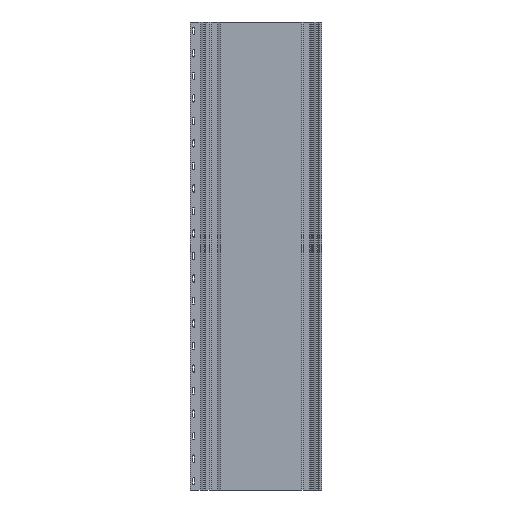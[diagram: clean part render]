
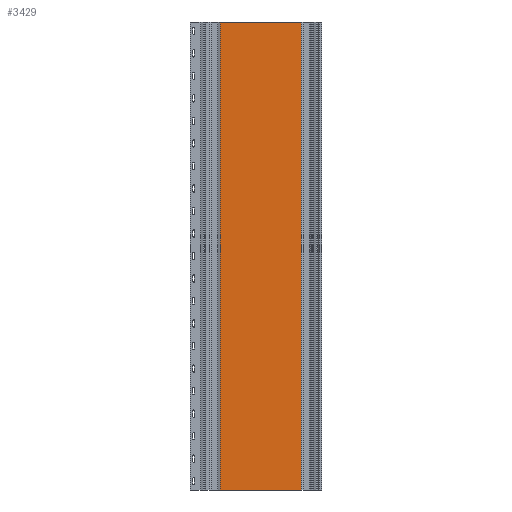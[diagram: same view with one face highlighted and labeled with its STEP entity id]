
A CAD part, front view. The second image highlights one B-rep face of the part: STEP entity #3429.
In plain terms, the highlighted planar face has unit normal (0, -1, 0).
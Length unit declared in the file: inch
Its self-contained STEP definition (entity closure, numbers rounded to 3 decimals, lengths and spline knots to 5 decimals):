
#122=PLANE('',#3745);
#273=FACE_OUTER_BOUND('',#443,.T.);
#443=EDGE_LOOP('',(#2723,#2724,#2725,#2726));
#785=LINE('',#5606,#1125);
#786=LINE('',#5609,#1126);
#787=LINE('',#5611,#1127);
#788=LINE('',#5612,#1128);
#1125=VECTOR('',#4593,0.3937);
#1126=VECTOR('',#4596,0.3937);
#1127=VECTOR('',#4597,0.3937);
#1128=VECTOR('',#4598,0.3937);
#1627=VERTEX_POINT('',#5602);
#1628=VERTEX_POINT('',#5604);
#1629=VERTEX_POINT('',#5608);
#1630=VERTEX_POINT('',#5610);
#2091=EDGE_CURVE('',#1627,#1628,#785,.T.);
#2092=EDGE_CURVE('',#1629,#1627,#786,.T.);
#2093=EDGE_CURVE('',#1630,#1628,#787,.T.);
#2094=EDGE_CURVE('',#1629,#1630,#788,.T.);
#2723=ORIENTED_EDGE('',*,*,#2092,.T.);
#2724=ORIENTED_EDGE('',*,*,#2091,.T.);
#2725=ORIENTED_EDGE('',*,*,#2093,.F.);
#2726=ORIENTED_EDGE('',*,*,#2094,.F.);
#3429=ADVANCED_FACE('',(#273),#122,.T.);
#3745=AXIS2_PLACEMENT_3D('',#5607,#4594,#4595);
#4593=DIRECTION('',(0.,0.,1.));
#4594=DIRECTION('center_axis',(0.,-1.,0.));
#4595=DIRECTION('ref_axis',(1.,0.,0.));
#4596=DIRECTION('',(1.,0.,0.));
#4597=DIRECTION('',(1.,0.,0.));
#4598=DIRECTION('',(0.,0.,1.));
#5602=CARTESIAN_POINT('',(11.62699,0.49452,0.));
#5604=CARTESIAN_POINT('',(11.62699,0.49452,46.75));
#5606=CARTESIAN_POINT('',(11.62699,0.49452,0.));
#5607=CARTESIAN_POINT('Origin',(3.50399,0.49452,0.));
#5608=CARTESIAN_POINT('',(3.50399,0.49452,0.));
#5609=CARTESIAN_POINT('',(3.50399,0.49452,0.));
#5610=CARTESIAN_POINT('',(3.50399,0.49452,46.75));
#5611=CARTESIAN_POINT('',(3.50399,0.49452,46.75));
#5612=CARTESIAN_POINT('',(3.50399,0.49452,0.));
